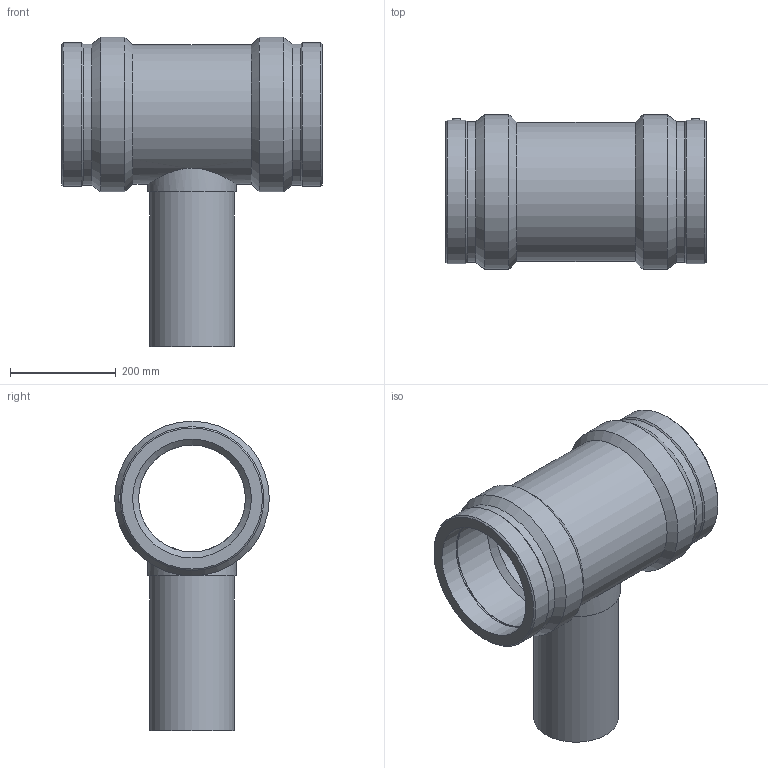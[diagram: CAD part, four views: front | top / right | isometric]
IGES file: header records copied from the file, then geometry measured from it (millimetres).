
Global section: file name: 491404225160.ipt; native system: Autodesk Inventor 2019; preprocessor: unknown; author: KIM; date: 20200621.104850; units: millimetre
Bounding box: 494 x 293 x 586.5 mm (x, y, z)
Volume: 13031314.5 mm3; surface area: 1094241.5 mm2
Topology: 1 solids, 1 shells, 45 faces, 101 edges, 66 vertices
Faces by surface type: plane 12, revolution 12, cylinder 11, cone 10
Full cylindrical faces by diameter (mm): 4 x2, 160 x1, 168 x1, 263.7 x1, 267.04 x2, 272.49 x2, 293 x2
